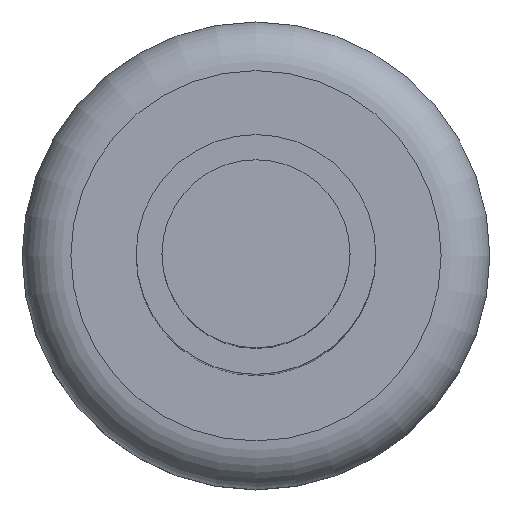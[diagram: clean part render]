
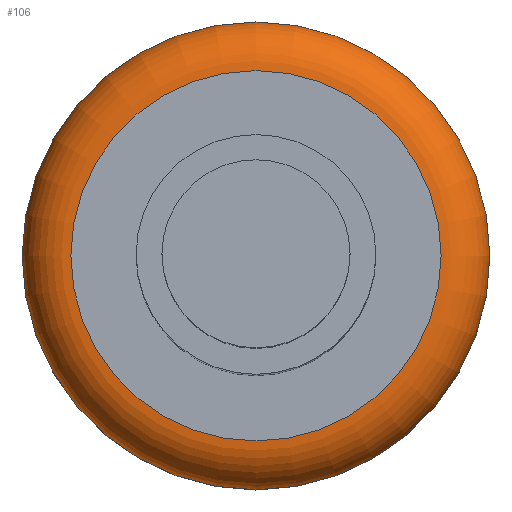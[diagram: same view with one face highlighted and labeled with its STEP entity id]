
A CAD part, top view. The second image highlights one B-rep face of the part: STEP entity #106.
In plain terms, the highlighted toroidal (fillet/blend) face has major radius 1.9 mm and minor radius 0.5 mm.
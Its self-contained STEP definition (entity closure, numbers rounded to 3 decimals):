
#35=TOROIDAL_SURFACE('',#280,1.9,0.5);
#106=ADVANCED_FACE('',(#124,#125),#35,.T.);
#124=FACE_BOUND('',#148,.T.);
#125=FACE_BOUND('',#149,.T.);
#148=EDGE_LOOP('',(#200));
#149=EDGE_LOOP('',(#201));
#200=ORIENTED_EDGE('',*,*,#225,.F.);
#201=ORIENTED_EDGE('',*,*,#226,.F.);
#205=VERTEX_POINT('',#359);
#206=VERTEX_POINT('',#362);
#225=EDGE_CURVE('',#205,#205,#251,.T.);
#226=EDGE_CURVE('',#206,#206,#252,.T.);
#251=CIRCLE('',#262,2.4);
#252=CIRCLE('',#264,1.9);
#262=AXIS2_PLACEMENT_3D('',#358,#293,#294);
#264=AXIS2_PLACEMENT_3D('',#361,#297,#298);
#280=AXIS2_PLACEMENT_3D('',#411,#347,#348);
#293=DIRECTION('',(0.,0.,-1.));
#294=DIRECTION('',(1.,0.,0.));
#297=DIRECTION('',(0.,0.,1.));
#298=DIRECTION('',(1.,0.,0.));
#347=DIRECTION('',(0.,0.,1.));
#348=DIRECTION('',(1.,0.,0.));
#358=CARTESIAN_POINT('',(-10.625,0.,1.95));
#359=CARTESIAN_POINT('',(-8.225,0.,1.95));
#361=CARTESIAN_POINT('',(-10.625,0.,2.45));
#362=CARTESIAN_POINT('',(-8.725,0.,2.45));
#411=CARTESIAN_POINT('',(-10.625,0.,1.95));
